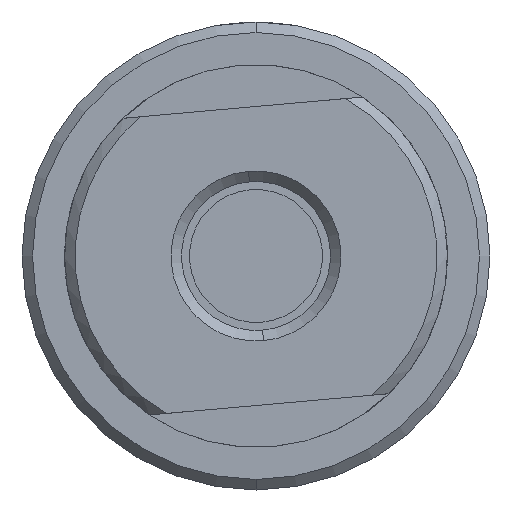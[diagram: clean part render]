
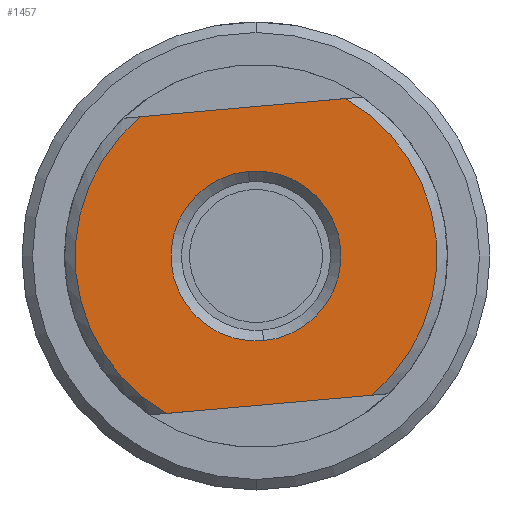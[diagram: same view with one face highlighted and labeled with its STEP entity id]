
A CAD part, front view. The second image highlights one B-rep face of the part: STEP entity #1457.
In plain terms, the highlighted planar face has unit normal (0, -1, 0).
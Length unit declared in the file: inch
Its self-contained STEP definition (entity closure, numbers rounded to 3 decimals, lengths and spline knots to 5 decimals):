
#45 = DIRECTION ( 'NONE',  ( 0., -1., 0. ) ) ;
#136 = LINE ( 'NONE', #528, #864 ) ;
#138 = DIRECTION ( 'NONE',  ( -0.088, 0., 0.996 ) ) ;
#141 = DIRECTION ( 'NONE',  ( 0., -1., 0. ) ) ;
#175 = CARTESIAN_POINT ( 'NONE',  ( 0.11793, -1.0464, 0.58221 ) ) ;
#233 = AXIS2_PLACEMENT_3D ( 'NONE', #2065, #614, #2326 ) ;
#238 = ORIENTED_EDGE ( 'NONE', *, *, #1929, .F. ) ;
#268 = ORIENTED_EDGE ( 'NONE', *, *, #2298, .T. ) ;
#288 = AXIS2_PLACEMENT_3D ( 'NONE', #1619, #141, #1855 ) ;
#294 = CIRCLE ( 'NONE', #717, 0.24975 ) ;
#306 = AXIS2_PLACEMENT_3D ( 'NONE', #2743, #1277, #3001 ) ;
#342 = EDGE_LOOP ( 'NONE', ( #2533, #1177 ) ) ;
#414 = VECTOR ( 'NONE', #1813, 39.37008 ) ;
#467 = EDGE_LOOP ( 'NONE', ( #238, #268, #2629, #3085 ) ) ;
#494 = CARTESIAN_POINT ( 'NONE',  ( -0.16609, -1.0464, 0.36851 ) ) ;
#504 = VERTEX_POINT ( 'NONE', #175 ) ;
#528 = CARTESIAN_POINT ( 'NONE',  ( -0.53486, -1.0464, 0.52427 ) ) ;
#546 = CARTESIAN_POINT ( 'NONE',  ( 0.1953, -1.0464, -0.28936 ) ) ;
#614 = DIRECTION ( 'NONE',  ( 0., -1., 0. ) ) ;
#717 = AXIS2_PLACEMENT_3D ( 'NONE', #3087, #1616, #138 ) ;
#778 = PLANE ( 'NONE',  #787 ) ;
#787 = AXIS2_PLACEMENT_3D ( 'NONE', #1531, #45, #1769 ) ;
#864 = VECTOR ( 'NONE', #1992, 39.37008 ) ;
#893 = CARTESIAN_POINT ( 'NONE',  ( -0.48331, -1.0464, 0.52884 ) ) ;
#1054 = LINE ( 'NONE', #2045, #414 ) ;
#1177 = ORIENTED_EDGE ( 'NONE', *, *, #2364, .T. ) ;
#1205 = FACE_OUTER_BOUND ( 'NONE', #467, .T. ) ;
#1213 = VERTEX_POINT ( 'NONE', #2978 ) ;
#1271 = FACE_BOUND ( 'NONE', #342, .T. ) ;
#1277 = DIRECTION ( 'NONE',  ( 0., 1., 0. ) ) ;
#1281 = VERTEX_POINT ( 'NONE', #546 ) ;
#1451 = EDGE_CURVE ( 'NONE', #2768, #2367, #1843, .T. ) ;
#1457 = ADVANCED_FACE ( 'NONE', ( #1205, #1271 ), #778, .T. ) ;
#1531 = CARTESIAN_POINT ( 'NONE',  ( 0.41629, -1.0464, 0.16948 ) ) ;
#1564 = CIRCLE ( 'NONE', #288, 0.5315 ) ;
#1616 = DIRECTION ( 'NONE',  ( 0., 1., 0. ) ) ;
#1619 = CARTESIAN_POINT ( 'NONE',  ( -0.14401, -1.0464, 0.11974 ) ) ;
#1769 = DIRECTION ( 'NONE',  ( -0.088, 0., 0.996 ) ) ;
#1813 = DIRECTION ( 'NONE',  ( -0.996, 0., -0.088 ) ) ;
#1843 = CIRCLE ( 'NONE', #306, 0.24975 ) ;
#1855 = DIRECTION ( 'NONE',  ( -0.088, 0., 0.996 ) ) ;
#1929 = EDGE_CURVE ( 'NONE', #3155, #504, #136, .T. ) ;
#1992 = DIRECTION ( 'NONE',  ( 0.996, 0., 0.088 ) ) ;
#2014 = EDGE_CURVE ( 'NONE', #1281, #1213, #1054, .T. ) ;
#2045 = CARTESIAN_POINT ( 'NONE',  ( -0.45749, -1.0464, -0.3473 ) ) ;
#2065 = CARTESIAN_POINT ( 'NONE',  ( -0.14401, -1.0464, 0.11974 ) ) ;
#2136 = EDGE_CURVE ( 'NONE', #1281, #504, #1564, .T. ) ;
#2298 = EDGE_CURVE ( 'NONE', #3155, #1213, #2323, .T. ) ;
#2323 = CIRCLE ( 'NONE', #233, 0.5315 ) ;
#2326 = DIRECTION ( 'NONE',  ( -0.088, 0., 0.996 ) ) ;
#2364 = EDGE_CURVE ( 'NONE', #2367, #2768, #294, .T. ) ;
#2367 = VERTEX_POINT ( 'NONE', #3076 ) ;
#2533 = ORIENTED_EDGE ( 'NONE', *, *, #1451, .T. ) ;
#2629 = ORIENTED_EDGE ( 'NONE', *, *, #2014, .F. ) ;
#2743 = CARTESIAN_POINT ( 'NONE',  ( -0.14401, -1.0464, 0.11974 ) ) ;
#2768 = VERTEX_POINT ( 'NONE', #494 ) ;
#2978 = CARTESIAN_POINT ( 'NONE',  ( -0.40595, -1.0464, -0.34273 ) ) ;
#3001 = DIRECTION ( 'NONE',  ( -0.088, 0., 0.996 ) ) ;
#3076 = CARTESIAN_POINT ( 'NONE',  ( -0.12192, -1.0464, -0.12903 ) ) ;
#3085 = ORIENTED_EDGE ( 'NONE', *, *, #2136, .T. ) ;
#3087 = CARTESIAN_POINT ( 'NONE',  ( -0.14401, -1.0464, 0.11974 ) ) ;
#3155 = VERTEX_POINT ( 'NONE', #893 ) ;
